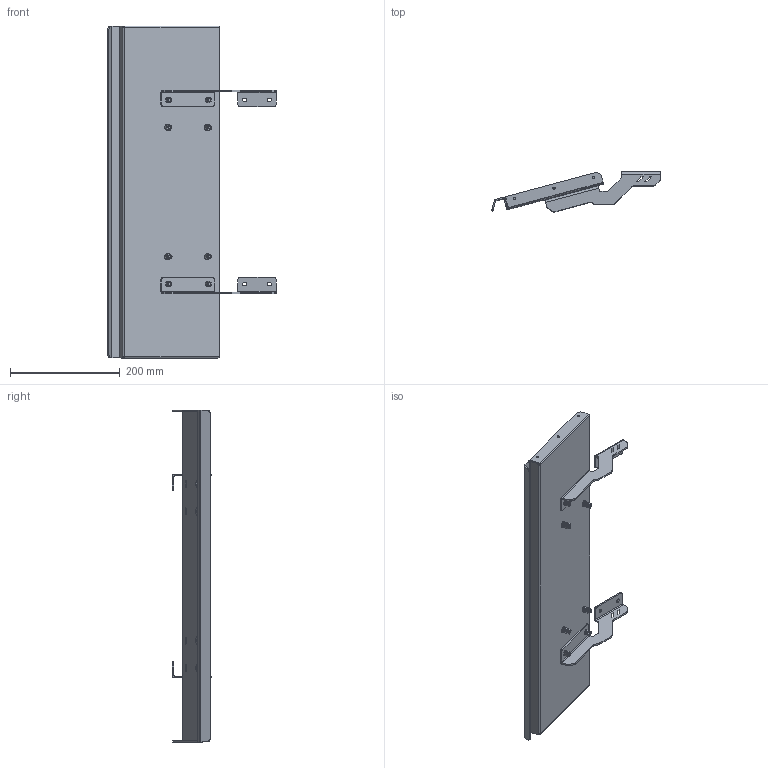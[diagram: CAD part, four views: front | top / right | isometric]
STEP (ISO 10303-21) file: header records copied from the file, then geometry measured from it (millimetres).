
FILE_DESCRIPTION (( 'STEP AP203' ), '1' );
FILE_NAME ('KLV.SC.N.2.STEP', '2024-10-18T11:29:22', ( '' ), ( '' ), 'SwSTEP 2.0', 'SolidWorks 2022', '' );
FILE_SCHEMA (( 'CONFIG_CONTROL_DESIGN' ));
Length unit declared in the file: millimetre
Products named in the file (1): KLV.SC.N.2
Bounding box: 306.41 x 72.41 x 604 mm (x, y, z)
Volume: 364142.6 mm3; surface area: 355200.9 mm2
Topology: 1 solids, 97 shells, 1203 faces, 3140 edges, 1951 vertices
Faces by surface type: cone 504, plane 332, cylinder 287, sphere 48, torus 32
Full cylindrical faces by diameter (mm): 4.2 x3, 4.9 x8, 7 x4, 7.8 x8, 11 x8, 11.6 x8
Entity records: 30369 total; most frequent: DIRECTION 5438, CARTESIAN_POINT 5190, ORIENTED_EDGE 4312, AXIS2_PLACEMENT_3D 2174, EDGE_CURVE 2156, EDGE_LOOP 1864, VERTEX_POINT 1542, FACE_OUTER_BOUND 1274
